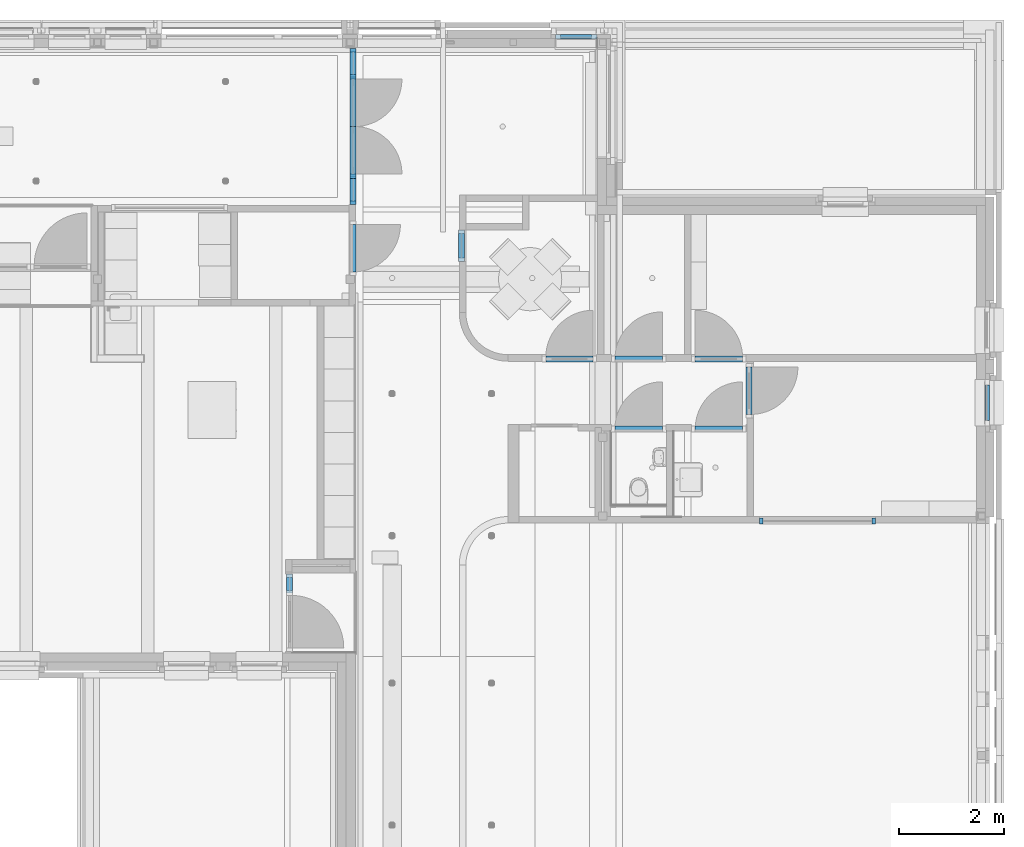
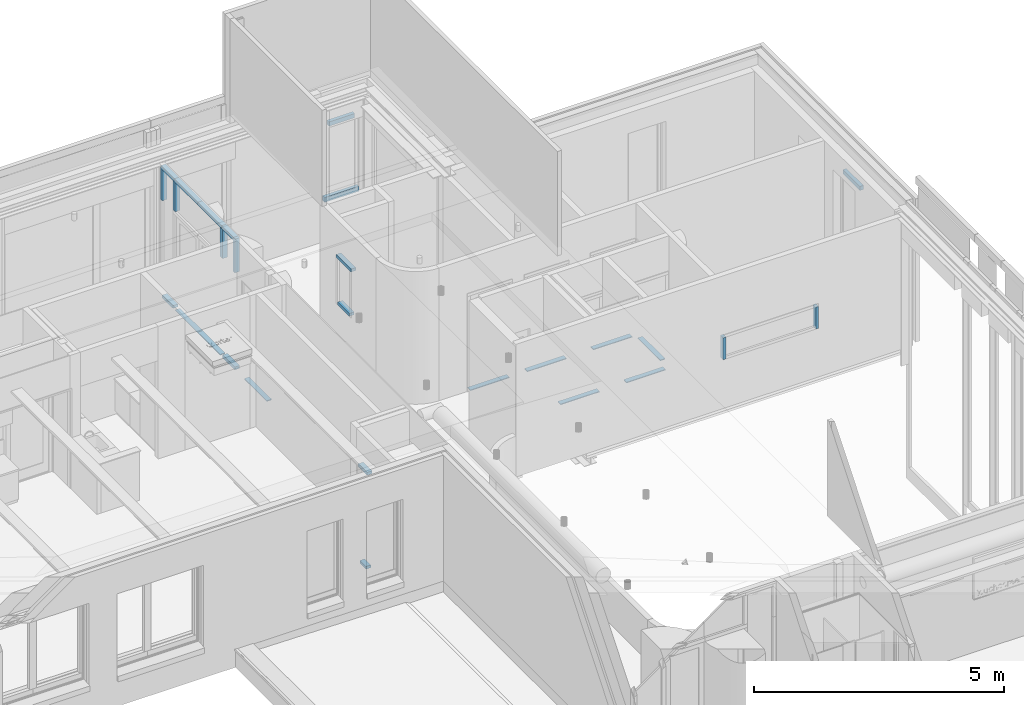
# One storey, part 30 of 128: 28 members, 13 elements without a shape of their own.
"""IFC2X3 building model written with IfcOpenShell, lengths in millimetres."""

from ifc_helpers import new_model, entity, si_unit, converted_unit, derived_unit, direction, frame, frame_2d, origin, origin_2d_with_axis, place, context, subcontext, project, spatial, rectangle, extrude, source, transform, mapped, material, type_object, type_shapes, element, aggregate, save


model = new_model("IFC2X3")

# Units and contexts
model_context = context("Model", 3, precision=0.01, world=origin(), true_north=direction((6.123031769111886e-17, 1.0)))
body_context = subcontext(model_context, "Body", "Model", "MODEL_VIEW")
ifc_project = project(units=[si_unit("LENGTHUNIT", "METRE", prefix="MILLI"), si_unit("AREAUNIT", "SQUARE_METRE"), si_unit("VOLUMEUNIT", "CUBIC_METRE"), converted_unit("PLANEANGLEUNIT", "DEGREE", entity("IfcRatioMeasure", 0.017453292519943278), si_unit("PLANEANGLEUNIT", "RADIAN"), dimensions=[0, 0, 0, 0, 0, 0, 0]), si_unit("MASSUNIT", "GRAM", prefix="KILO"), derived_unit("MASSDENSITYUNIT", [(si_unit("MASSUNIT", "GRAM", prefix="KILO"), 1), (si_unit("LENGTHUNIT", "METRE"), -3)]), derived_unit("IONCONCENTRATIONUNIT", [(si_unit("MASSUNIT", "GRAM", prefix="KILO"), 1), (si_unit("LENGTHUNIT", "METRE"), -3)]), derived_unit("MOMENTOFINERTIAUNIT", [(si_unit("LENGTHUNIT", "METRE"), 4)]), si_unit("TIMEUNIT", "SECOND"), si_unit("FREQUENCYUNIT", "HERTZ"), si_unit("THERMODYNAMICTEMPERATUREUNIT", "DEGREE_CELSIUS"), derived_unit("THERMALTRANSMITTANCEUNIT", [(si_unit("MASSUNIT", "GRAM", prefix="KILO"), 1), (si_unit("THERMODYNAMICTEMPERATUREUNIT", "KELVIN"), -1), (si_unit("TIMEUNIT", "SECOND"), -3)]), derived_unit("THERMALCONDUCTANCEUNIT", [(si_unit("MASSUNIT", "GRAM", prefix="KILO"), 1), (si_unit("THERMODYNAMICTEMPERATUREUNIT", "KELVIN"), -1), (si_unit("TIMEUNIT", "SECOND"), -3), (si_unit("LENGTHUNIT", "METRE"), 1)]), derived_unit("VOLUMETRICFLOWRATEUNIT", [(si_unit("LENGTHUNIT", "METRE"), 3), (si_unit("TIMEUNIT", "SECOND"), -1)]), derived_unit("MASSFLOWRATEUNIT", [(si_unit("MASSUNIT", "GRAM", prefix="KILO"), 1), (si_unit("TIMEUNIT", "SECOND"), -1)]), derived_unit("ROTATIONALFREQUENCYUNIT", [(si_unit("TIMEUNIT", "SECOND"), -1)]), si_unit("ELECTRICCURRENTUNIT", "AMPERE"), si_unit("ELECTRICVOLTAGEUNIT", "VOLT"), si_unit("POWERUNIT", "WATT"), si_unit("FORCEUNIT", "NEWTON", prefix="KILO"), si_unit("ILLUMINANCEUNIT", "LUX"), si_unit("LUMINOUSFLUXUNIT", "LUMEN"), si_unit("LUMINOUSINTENSITYUNIT", "CANDELA"), derived_unit("USERDEFINED", [(si_unit("MASSUNIT", "GRAM", prefix="KILO"), -1), (si_unit("LENGTHUNIT", "METRE"), -2), (si_unit("TIMEUNIT", "SECOND"), 3), (si_unit("LUMINOUSFLUXUNIT", "LUMEN"), 1)]), derived_unit("USERDEFINED", [(si_unit("MASSUNIT", "GRAM", prefix="KILO"), 1), (si_unit("TIMEUNIT", "SECOND"), -3), (si_unit("LENGTHUNIT", "METRE"), 3), (si_unit("ELECTRICCURRENTUNIT", "AMPERE"), -2)]), derived_unit("SOUNDPOWERUNIT", [(si_unit("MASSUNIT", "GRAM", prefix="KILO"), 1), (si_unit("TIMEUNIT", "SECOND"), -3), (si_unit("LENGTHUNIT", "METRE"), 2)]), derived_unit("SOUNDPRESSUREUNIT", [(si_unit("MASSUNIT", "GRAM", prefix="KILO"), 1), (si_unit("LENGTHUNIT", "METRE"), -1), (si_unit("TIMEUNIT", "SECOND"), -2)]), derived_unit("LINEARVELOCITYUNIT", [(si_unit("LENGTHUNIT", "METRE"), 1), (si_unit("TIMEUNIT", "SECOND"), -1)]), si_unit("PRESSUREUNIT", "PASCAL"), derived_unit("USERDEFINED", [(si_unit("MASSUNIT", "GRAM", prefix="KILO"), 1), (si_unit("LENGTHUNIT", "METRE"), -2), (si_unit("TIMEUNIT", "SECOND"), -2)]), derived_unit("LINEARFORCEUNIT", [(si_unit("MASSUNIT", "GRAM", prefix="KILO"), 1), (si_unit("TIMEUNIT", "SECOND"), -2)]), derived_unit("PLANARFORCEUNIT", [(si_unit("MASSUNIT", "GRAM", prefix="KILO"), 1), (si_unit("LENGTHUNIT", "METRE"), -1), (si_unit("TIMEUNIT", "SECOND"), -2)]), derived_unit("SPECIFICHEATCAPACITYUNIT", [(si_unit("THERMODYNAMICTEMPERATUREUNIT", "KELVIN"), -1), (si_unit("LENGTHUNIT", "METRE"), 2), (si_unit("TIMEUNIT", "SECOND"), -2)]), derived_unit("HEATINGVALUEUNIT", [(si_unit("LENGTHUNIT", "METRE"), 2), (si_unit("TIMEUNIT", "SECOND"), -2)]), derived_unit("VAPORPERMEABILITYUNIT", [(si_unit("LENGTHUNIT", "METRE"), -1), (si_unit("TIMEUNIT", "SECOND"), 1)]), derived_unit("DYNAMICVISCOSITYUNIT", [(si_unit("MASSUNIT", "GRAM", prefix="KILO"), 1), (si_unit("TIMEUNIT", "SECOND"), -1), (si_unit("LENGTHUNIT", "METRE"), -1)]), derived_unit("THERMALEXPANSIONCOEFFICIENTUNIT", [(si_unit("THERMODYNAMICTEMPERATUREUNIT", "KELVIN"), -1)]), derived_unit("MODULUSOFELASTICITYUNIT", [(si_unit("MASSUNIT", "GRAM", prefix="KILO"), 1), (si_unit("LENGTHUNIT", "METRE"), -1), (si_unit("TIMEUNIT", "SECOND"), -2)]), derived_unit("ISOTHERMALMOISTURECAPACITYUNIT", [(si_unit("LENGTHUNIT", "METRE"), 3), (si_unit("MASSUNIT", "GRAM", prefix="KILO"), -1)]), derived_unit("MOISTUREDIFFUSIVITYUNIT", [(si_unit("TIMEUNIT", "SECOND"), -1), (si_unit("LENGTHUNIT", "METRE"), 2)])], contexts=[model_context])

# Site, building, storey
site_placement = place(None, frame((0.0, 300.0, 0.0)))
site = spatial("IfcSite", under=ifc_project, at=site_placement, Name="<Kadastrale nummers>", CompositionType="ELEMENT")
building_placement = place(site_placement, origin())
building = spatial("IfcBuilding", under=site, at=building_placement, CompositionType="ELEMENT")
storey_placement = place(building_placement, frame((0.0, 0.0, 3560.0000331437)))
storey = spatial("IfcBuildingStorey", under=building, at=storey_placement, Name="01 eerste verdieping", CompositionType="ELEMENT", Elevation=3560.0000331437)

# Curtain wall, member
curtain_wall_type_1 = type_object("IfcCurtainWallType", Name="Curtain Wall:Merk H02", PredefinedType="NOTDEFINED")
curtain_wall_1_placement = place(storey_placement, frame((0.0, 0.0, -3560.0000331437)))
curtain_wall_1 = element("IfcCurtainWall", 1, at=curtain_wall_1_placement, inside=storey, type_object=curtain_wall_type_1, Name="Curtain Wall:Merk H02", ObjectType="Curtain Wall:Merk H02")
ifc_material_1 = material(Name="ISR_Kunststof_grijs")
member_type_1 = type_object("IfcMemberType", Name="Rectangular Mullion:31_CWM_020x114", PredefinedType="MULLION", material=ifc_material_1)
shared_shape_1 = source(origin(), body_context, "Body", "SweptSolid", [
    extrude(rectangle(XDim=113.99999999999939, YDim=20.0, at=origin_2d_with_axis()), frame((-10.0, -57.0, -900.0), z_axis=(0.0, 0.0, 1.0), x_axis=(0.0, -1.0, 0.0)), (0.0, 0.0, 1.0), 899.999999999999),
])
type_shapes(member_type_1, [shared_shape_1])
member_1_placement = place(curtain_wall_1_placement, frame((41632.0, 43725.12500267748, 3650.00003501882), z_axis=(-1.0, 0.0, 0.0), x_axis=(0.0, 0.0, -1.0)))
member_1 = element("IfcMember", 2, at=member_1_placement, type_object=member_type_1, material=ifc_material_1, Name="Rectangular Mullion:31_CWM_020x114", ObjectType="Rectangular Mullion:31_CWM_020x114", context=body_context, shape_type="MappedRepresentation", body=[
    mapped(shared_shape_1, transform((0.0, 0.0, 0.0), scale=1.0)),
])
aggregate(curtain_wall_1, [member_1])

curtain_wall_2_placement = place(storey_placement, frame((0.0, 0.0, -3560.0000331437)))
curtain_wall_2 = element("IfcCurtainWall", 3, at=curtain_wall_2_placement, inside=storey, type_object=curtain_wall_type_1, Name="Curtain Wall:Merk H02", ObjectType="Curtain Wall:Merk H02")
member_2_placement = place(curtain_wall_2_placement, frame((43157.0, 42395.125002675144, 3650.00003501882), z_axis=(-1.0, 0.0, 0.0), x_axis=(0.0, 0.0, -1.0)))
member_2 = element("IfcMember", 4, at=member_2_placement, type_object=member_type_1, material=ifc_material_1, Name="Rectangular Mullion:31_CWM_020x114", ObjectType="Rectangular Mullion:31_CWM_020x114", context=body_context, shape_type="MappedRepresentation", body=[
    mapped(shared_shape_1, transform((0.0, 0.0, 0.0), scale=1.0)),
])
aggregate(curtain_wall_2, [member_2])

curtain_wall_3_placement = place(storey_placement, frame((0.0, 0.0, -3560.0000331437)))
curtain_wall_3 = element("IfcCurtainWall", 5, at=curtain_wall_3_placement, inside=storey, type_object=curtain_wall_type_1, Name="Curtain Wall:Merk H02", ObjectType="Curtain Wall:Merk H02")
member_3_placement = place(curtain_wall_3_placement, frame((41632.0, 42395.125002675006, 3650.00003501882), z_axis=(-1.0, 0.0, 0.0), x_axis=(0.0, 0.0, -1.0)))
member_3 = element("IfcMember", 6, at=member_3_placement, type_object=member_type_1, material=ifc_material_1, Name="Rectangular Mullion:31_CWM_020x114", ObjectType="Rectangular Mullion:31_CWM_020x114", context=body_context, shape_type="MappedRepresentation", body=[
    mapped(shared_shape_1, transform((0.0, 0.0, 0.0), scale=1.0)),
])
aggregate(curtain_wall_3, [member_3])

curtain_wall_type_2 = type_object("IfcCurtainWallType", Name="Curtain Wall:Merk H16", PredefinedType="NOTDEFINED")
curtain_wall_4_placement = place(storey_placement, frame((0.0, 0.0, -3560.0000331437)))
curtain_wall_4 = element("IfcCurtainWall", 7, at=curtain_wall_4_placement, inside=storey, type_object=curtain_wall_type_2, Name="Curtain Wall:Merk H16", ObjectType="Curtain Wall:Merk H16")
member_4_placement = place(curtain_wall_4_placement, frame((40318.0, 43725.125002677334, 3650.0000350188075), z_axis=(-1.0, 0.0, 0.0), x_axis=(0.0, 0.0, -1.0)))
member_4 = element("IfcMember", 8, at=member_4_placement, type_object=member_type_1, material=ifc_material_1, Name="Rectangular Mullion:31_CWM_020x114", ObjectType="Rectangular Mullion:31_CWM_020x114", context=body_context, shape_type="MappedRepresentation", body=[
    mapped(shared_shape_1, transform((0.0, 0.0, 0.0), scale=1.0)),
])
aggregate(curtain_wall_4, [member_4])

curtain_wall_5_placement = place(storey_placement, frame((0.0, 0.0, -3560.0000331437)))
curtain_wall_5 = element("IfcCurtainWall", 9, at=curtain_wall_5_placement, inside=storey, type_object=curtain_wall_type_1, Name="Curtain Wall:Merk H02", ObjectType="Curtain Wall:Merk H02")
member_type_2 = type_object("IfcMemberType", Name="Rectangular Mullion:31_CWM_020x114", PredefinedType="MULLION", material=ifc_material_1)
shared_shape_2 = source(origin(), body_context, "Body", "SweptSolid", [
    extrude(rectangle(XDim=113.99999999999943, YDim=20.0, at=origin_2d_with_axis()), frame((-10.0, 57.0, -900.0), z_axis=(0.0, 0.0, 1.0), x_axis=(0.0, -1.0, 0.0)), (0.0, 0.0, 1.0), 899.999999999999),
])
type_shapes(member_type_2, [shared_shape_2])
member_5_placement = place(curtain_wall_5_placement, frame((36601.0, 45437.10974942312, 3650.000035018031), z_axis=(0.0, -1.0, 0.0), x_axis=(0.0, 0.0, -1.0)))
member_5 = element("IfcMember", 10, at=member_5_placement, type_object=member_type_2, material=ifc_material_1, Name="Rectangular Mullion:31_CWM_020x114", ObjectType="Rectangular Mullion:31_CWM_020x114", context=body_context, shape_type="MappedRepresentation", body=[
    mapped(shared_shape_2, transform((0.0, 0.0, 0.0), scale=1.0)),
])
aggregate(curtain_wall_5, [member_5])

curtain_wall_6_placement = place(storey_placement, frame((0.0, 0.0, -3560.0000331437)))
curtain_wall_6 = element("IfcCurtainWall", 11, at=curtain_wall_6_placement, inside=storey, type_object=curtain_wall_type_2, Name="Curtain Wall:Merk H16", ObjectType="Curtain Wall:Merk H16")
member_6_placement = place(curtain_wall_6_placement, frame((44057.0, 43725.12500267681, 3650.0000350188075), z_axis=(1.0, 0.0, 0.0), x_axis=(0.0, 0.0, -1.0)))
member_6 = element("IfcMember", 12, at=member_6_placement, type_object=member_type_2, material=ifc_material_1, Name="Rectangular Mullion:31_CWM_020x114", ObjectType="Rectangular Mullion:31_CWM_020x114", context=body_context, shape_type="MappedRepresentation", body=[
    mapped(shared_shape_2, transform((0.0, 0.0, 0.0), scale=1.0)),
])
aggregate(curtain_wall_6, [member_6])

curtain_wall_7_placement = place(storey_placement, frame((0.0, 0.0, -3560.0000331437)))
curtain_wall_7 = element("IfcCurtainWall", 13, at=curtain_wall_7_placement, inside=storey, type_object=curtain_wall_type_2, Name="Curtain Wall:Merk H16", ObjectType="Curtain Wall:Merk H16")
member_7_placement = place(curtain_wall_7_placement, frame((44125.0, 42730.12500266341, 3650.000035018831), z_axis=(0.0, -1.0, 0.0), x_axis=(0.0, 0.0, -1.0)))
member_7 = element("IfcMember", 14, at=member_7_placement, type_object=member_type_2, material=ifc_material_1, Name="Rectangular Mullion:31_CWM_020x114", ObjectType="Rectangular Mullion:31_CWM_020x114", context=body_context, shape_type="MappedRepresentation", body=[
    mapped(shared_shape_2, transform((0.0, 0.0, 0.0), scale=1.0)),
])
aggregate(curtain_wall_7, [member_7])

# Curtain wall, members
curtain_wall_type_3 = type_object("IfcCurtainWallType", Name="Curtain Wall:Merk H03", PredefinedType="NOTDEFINED")
curtain_wall_8_placement = place(storey_placement, frame((0.0, 0.0, -3560.0000331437)))
curtain_wall_8 = element("IfcCurtainWall", 15, at=curtain_wall_8_placement, inside=storey, type_object=curtain_wall_type_3, Name="Curtain Wall:Merk H03", ObjectType="Curtain Wall:Merk H03")
ifc_material_2 = material(Name="ISR_HPL")
member_type_3 = type_object("IfcMemberType", Name="Rectangular Mullion:31_CWM_067x114", PredefinedType="MULLION", material=ifc_material_2)
shared_shape_3 = source(origin(), body_context, "Body", "SweptSolid", [
    extrude(rectangle(XDim=113.99999999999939, YDim=67.0, at=origin_2d_with_axis()), frame((-33.5, -57.0, -246.0), z_axis=(0.0, 0.0, 1.0), x_axis=(0.0, -1.0, 0.0)), (0.0, 0.0, 1.0), 245.99999999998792),
])
type_shapes(member_type_3, [shared_shape_3])
member_8_placement = place(curtain_wall_8_placement, frame((35396.03993791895, 39628.0, 3650.0000350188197), z_axis=(0.0, 1.0, 0.0), x_axis=(0.0, 0.0, -1.0)))
member_8 = element("IfcMember", 16, at=member_8_placement, type_object=member_type_3, material=ifc_material_2, Name="Rectangular Mullion:31_CWM_067x114", ObjectType="Rectangular Mullion:31_CWM_067x114", context=body_context, shape_type="MappedRepresentation", body=[
    mapped(shared_shape_3, transform((0.0, 0.0, 0.0), scale=1.0)),
])
member_type_4 = type_object("IfcMemberType", Name="Rectangular Mullion:31_CWM_067x114", PredefinedType="MULLION", material=ifc_material_2)
shared_shape_4 = source(origin(), body_context, "Body", "SweptSolid", [
    extrude(rectangle(XDim=113.99999999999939, YDim=67.0, at=origin_2d_with_axis()), frame((-33.5, -57.0, -358.0), z_axis=(0.0, 0.0, 1.0), x_axis=(0.0, -1.0, 0.0)), (0.0, 0.0, 1.0), 357.99999999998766),
])
type_shapes(member_type_4, [shared_shape_4])
member_9_placement = place(curtain_wall_8_placement, frame((35396.039937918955, 39337.0, 6040.0000331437), z_axis=(0.0, -1.0, 0.0), x_axis=(0.0, 0.0, 1.0)))
member_9 = element("IfcMember", 17, at=member_9_placement, type_object=member_type_4, material=ifc_material_2, Name="Rectangular Mullion:31_CWM_067x114", ObjectType="Rectangular Mullion:31_CWM_067x114", context=body_context, shape_type="MappedRepresentation", body=[
    mapped(shared_shape_4, transform((0.0, 0.0, 0.0), scale=1.0)),
])
aggregate(curtain_wall_8, [member_8, member_9])

curtain_wall_type_4 = type_object("IfcCurtainWallType", Name="Curtain Wall:Merk H13", PredefinedType="NOTDEFINED")
curtain_wall_9_placement = place(storey_placement, frame((0.0, 0.0, -3560.0000331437)))
curtain_wall_9 = element("IfcCurtainWall", 18, at=curtain_wall_9_placement, inside=storey, type_object=curtain_wall_type_4, Name="Curtain Wall:Merk H13", ObjectType="Curtain Wall:Merk H13")
member_type_5 = type_object("IfcMemberType", Name="Rectangular Mullion:31_CWM_067x114", PredefinedType="MULLION", material=ifc_material_2)
shared_shape_5 = source(origin(), body_context, "Body", "SweptSolid", [
    extrude(rectangle(XDim=113.99999999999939, YDim=67.0, at=origin_2d_with_axis()), frame((-33.5, -57.0, -533.0), z_axis=(0.0, 0.0, 1.0), x_axis=(0.0, -1.0, 0.0)), (0.0, 0.0, 1.0), 533.0000000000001),
])
type_shapes(member_type_5, [shared_shape_5])
member_10_placement = place(curtain_wall_9_placement, frame((46585.0, 40650.0, 4850.0000331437), z_axis=(0.0, 0.0, -1.0), x_axis=(1.0, 0.0, 0.0)))
member_10 = element("IfcMember", 19, at=member_10_placement, type_object=member_type_5, material=ifc_material_2, Name="Rectangular Mullion:31_CWM_067x114", ObjectType="Rectangular Mullion:31_CWM_067x114", context=body_context, shape_type="MappedRepresentation", body=[
    mapped(shared_shape_5, transform((0.0, 0.0, 0.0), scale=1.0)),
])
member_type_6 = type_object("IfcMemberType", Name="Rectangular Mullion:31_CWM_067x114", PredefinedType="MULLION", material=ifc_material_2)
shared_shape_6 = source(origin(), body_context, "Body", "SweptSolid", [
    extrude(rectangle(XDim=113.9999999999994, YDim=67.0, at=frame_2d((1.0658141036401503e-14, 0.0), x_axis=(1.0, 0.0))), frame((-33.5, -57.0, -533.0), z_axis=(0.0, 0.0, 1.0), x_axis=(0.0, -1.0, 0.0)), (0.0, 0.0, 1.0), 533.0000000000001),
])
type_shapes(member_type_6, [shared_shape_6])
member_11_placement = place(curtain_wall_9_placement, frame((44380.0, 40650.0, 5383.0000331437), z_axis=(0.0, 0.0, 1.0), x_axis=(-1.0, 0.0, 0.0)))
member_11 = element("IfcMember", 20, at=member_11_placement, type_object=member_type_6, material=ifc_material_2, Name="Rectangular Mullion:31_CWM_067x114", ObjectType="Rectangular Mullion:31_CWM_067x114", context=body_context, shape_type="MappedRepresentation", body=[
    mapped(shared_shape_6, transform((0.0, 0.0, 0.0), scale=1.0)),
])
aggregate(curtain_wall_9, [member_10, member_11])

curtain_wall_type_5 = type_object("IfcCurtainWallType", Name="Curtain Wall:Merk H05", PredefinedType="NOTDEFINED")
curtain_wall_10_placement = place(storey_placement, frame((0.0, 0.0, -3560.0000331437)))
curtain_wall_10 = element("IfcCurtainWall", 21, at=curtain_wall_10_placement, inside=storey, type_object=curtain_wall_type_5, Name="Curtain Wall:Merk H05", ObjectType="Curtain Wall:Merk H05")
member_type_7 = type_object("IfcMemberType", Name="Rectangular Mullion:31_CWM_067x114", PredefinedType="MULLION", material=ifc_material_2)
shared_shape_7 = source(origin(), body_context, "Body", "SweptSolid", [
    extrude(rectangle(XDim=113.99999999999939, YDim=67.0, at=origin_2d_with_axis()), frame((-33.5, 57.0, -600.0), z_axis=(0.0, 0.0, 1.0), x_axis=(0.0, -1.0, 0.0)), (0.0, 0.0, 1.0), 600.0000000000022),
])
type_shapes(member_type_7, [shared_shape_7])
member_12_placement = place(curtain_wall_10_placement, frame((38774.0, 45635.0, 6040.0000331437), z_axis=(0.0, -1.0, 0.0), x_axis=(0.0, 0.0, 1.0)))
member_12 = element("IfcMember", 22, at=member_12_placement, type_object=member_type_7, material=ifc_material_2, Name="Rectangular Mullion:31_CWM_067x114", ObjectType="Rectangular Mullion:31_CWM_067x114", context=body_context, shape_type="MappedRepresentation", body=[
    mapped(shared_shape_7, transform((0.0, 0.0, 0.0), scale=1.0)),
])
member_type_8 = type_object("IfcMemberType", Name="Rectangular Mullion:31_CWM_067x114", PredefinedType="MULLION", material=ifc_material_2)
shared_shape_8 = source(origin(), body_context, "Body", "SweptSolid", [
    extrude(rectangle(XDim=113.99999999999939, YDim=67.0, at=origin_2d_with_axis()), frame((-33.5, 57.0, -466.0), z_axis=(0.0, 0.0, 1.0), x_axis=(0.0, -1.0, 0.0)), (0.0, 0.0, 1.0), 466.00000000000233),
])
type_shapes(member_type_8, [shared_shape_8])
member_13_placement = place(curtain_wall_10_placement, frame((38774.0, 46168.0, 4850.0000331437), z_axis=(0.0, 1.0, 0.0), x_axis=(0.0, 0.0, -1.0)))
member_13 = element("IfcMember", 23, at=member_13_placement, type_object=member_type_8, material=ifc_material_2, Name="Rectangular Mullion:31_CWM_067x114", ObjectType="Rectangular Mullion:31_CWM_067x114", context=body_context, shape_type="MappedRepresentation", body=[
    mapped(shared_shape_8, transform((0.0, 0.0, 0.0), scale=1.0)),
])
aggregate(curtain_wall_10, [member_12, member_13])

curtain_wall_type_6 = type_object("IfcCurtainWallType", Name="Curtain Wall:Merk H11", PredefinedType="NOTDEFINED")
curtain_wall_11_placement = place(storey_placement, frame((0.0, 0.0, -3560.0000331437)))
curtain_wall_11 = element("IfcCurtainWall", 24, at=curtain_wall_11_placement, inside=storey, type_object=curtain_wall_type_6, Name="Curtain Wall:Merk H11", ObjectType="Curtain Wall:Merk H11")
member_type_9 = type_object("IfcMemberType", Name="Rectangular Mullion:31_CWM_067x114", PredefinedType="MULLION", material=ifc_material_2)
shared_shape_9 = source(origin(), body_context, "Body", "SweptSolid", [
    extrude(rectangle(XDim=113.99999999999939, YDim=67.0, at=origin_2d_with_axis()), frame((-33.5, -57.0, -755.0), z_axis=(0.0, 0.0, 1.0), x_axis=(0.0, -1.0, 0.0)), (0.0, 0.0, 1.0), 754.99999999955),
])
type_shapes(member_type_9, [shared_shape_9])
member_14_placement = place(curtain_wall_11_placement, frame((36601.0, 49685.0, 6773.0000331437), z_axis=(0.0, 0.0, 1.0), x_axis=(0.0, 1.0, 0.0)))
member_14 = element("IfcMember", 25, at=member_14_placement, type_object=member_type_9, material=ifc_material_2, Name="Rectangular Mullion:31_CWM_067x114", ObjectType="Rectangular Mullion:31_CWM_067x114", context=body_context, shape_type="MappedRepresentation", body=[
    mapped(shared_shape_9, transform((0.0, 0.0, 0.0), scale=1.0)),
])
member_type_10 = type_object("IfcMemberType", Name="Rectangular Mullion:31_CWM_067x114", PredefinedType="MULLION", material=ifc_material_2)
shared_shape_10 = source(origin(), body_context, "Body", "SweptSolid", [
    extrude(rectangle(XDim=113.99999999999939, YDim=67.0, at=origin_2d_with_axis()), frame((-33.5, -57.0, -822.0), z_axis=(0.0, 0.0, 1.0), x_axis=(0.0, -1.0, 0.0)), (0.0, 0.0, 1.0), 821.99999999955),
])
type_shapes(member_type_10, [shared_shape_10])
member_15_placement = place(curtain_wall_11_placement, frame((36601.0, 46715.0, 6018.0000331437), z_axis=(0.0, 0.0, -1.0), x_axis=(0.0, -1.0, 0.0)))
member_15 = element("IfcMember", 26, at=member_15_placement, type_object=member_type_10, material=ifc_material_2, Name="Rectangular Mullion:31_CWM_067x114", ObjectType="Rectangular Mullion:31_CWM_067x114", context=body_context, shape_type="MappedRepresentation", body=[
    mapped(shared_shape_10, transform((0.0, 0.0, 0.0), scale=1.0)),
])
ifc_material_3 = material(Name="ISR_HPL Kleur hout")
member_type_11 = type_object("IfcMemberType", Name="Rectangular Mullion:31_CWM_090x114", PredefinedType="MULLION", material=ifc_material_3)
shared_shape_11 = source(origin(), body_context, "Body", "SweptSolid", [
    extrude(rectangle(XDim=113.99999999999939, YDim=90.0, at=origin_2d_with_axis()), frame((0.0, -57.0, -710.0), z_axis=(0.0, 0.0, 1.0), x_axis=(0.0, -1.0, 0.0)), (0.0, 0.0, 1.0), 710.000000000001),
])
type_shapes(member_type_11, [shared_shape_11])
member_16_placement = place(curtain_wall_11_placement, frame((36601.0, 47255.0, 6063.0000331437), z_axis=(0.0, 0.0, -1.0), x_axis=(0.0, -1.0, 0.0)))
member_16 = element("IfcMember", 27, at=member_16_placement, type_object=member_type_11, material=ifc_material_3, Name="Rectangular Mullion:31_CWM_090x114", ObjectType="Rectangular Mullion:31_CWM_090x114", context=body_context, shape_type="MappedRepresentation", body=[
    mapped(shared_shape_11, transform((0.0, 0.0, 0.0), scale=1.0)),
])
member_17_placement = place(curtain_wall_11_placement, frame((36601.0, 49145.0, 6063.0000331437), z_axis=(0.0, 0.0, -1.0), x_axis=(0.0, -1.0, 0.0)))
member_17 = element("IfcMember", 28, at=member_17_placement, type_object=member_type_11, material=ifc_material_3, Name="Rectangular Mullion:31_CWM_090x114", ObjectType="Rectangular Mullion:31_CWM_090x114", context=body_context, shape_type="MappedRepresentation", body=[
    mapped(shared_shape_11, transform((0.0, 0.0, 0.0), scale=1.0)),
])
member_type_12 = type_object("IfcMemberType", Name="Rectangular Mullion:31_CWM_067x114", PredefinedType="MULLION", material=ifc_material_2)
shared_shape_12 = source(origin(), body_context, "Body", "SweptSolid", [
    extrude(rectangle(XDim=113.99999999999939, YDim=67.0, at=origin_2d_with_axis()), frame((-33.5, -57.0, -473.0), z_axis=(0.0, 0.0, 1.0), x_axis=(0.0, -1.0, 0.0)), (0.0, 0.0, 1.0), 472.9999999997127),
])
type_shapes(member_type_12, [shared_shape_12])
member_18_placement = place(curtain_wall_11_placement, frame((36601.0, 46782.0, 6840.0000331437), z_axis=(0.0, -1.0, 0.0), x_axis=(0.0, 0.0, 1.0)))
member_18 = element("IfcMember", 29, at=member_18_placement, type_object=member_type_12, material=ifc_material_2, Name="Rectangular Mullion:31_CWM_067x114", ObjectType="Rectangular Mullion:31_CWM_067x114", context=body_context, shape_type="MappedRepresentation", body=[
    mapped(shared_shape_12, transform((0.0, 0.0, 0.0), scale=1.0)),
])
member_type_13 = type_object("IfcMemberType", Name="Rectangular Mullion:31_CWM_067x114", PredefinedType="MULLION", material=ifc_material_2)
shared_shape_13 = source(origin(), body_context, "Body", "SweptSolid", [
    extrude(rectangle(XDim=113.99999999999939, YDim=67.0, at=origin_2d_with_axis()), frame((-33.5, -57.0, -428.0), z_axis=(0.0, 0.0, 1.0), x_axis=(0.0, -1.0, 0.0)), (0.0, 0.0, 1.0), 427.9999999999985),
])
type_shapes(member_type_13, [shared_shape_13])
member_19_placement = place(curtain_wall_11_placement, frame((36601.0, 49618.0, 3650.0000350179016), z_axis=(0.0, 1.0, 0.0), x_axis=(0.0, 0.0, -1.0)))
member_19 = element("IfcMember", 30, at=member_19_placement, type_object=member_type_13, material=ifc_material_2, Name="Rectangular Mullion:31_CWM_067x114", ObjectType="Rectangular Mullion:31_CWM_067x114", context=body_context, shape_type="MappedRepresentation", body=[
    mapped(shared_shape_13, transform((0.0, 0.0, 0.0), scale=1.0)),
])
member_type_14 = type_object("IfcMemberType", Name="Rectangular Mullion:31_CWM_067x114", PredefinedType="MULLION", material=ifc_material_2)
shared_shape_14 = source(origin(), body_context, "Body", "SweptSolid", [
    extrude(rectangle(XDim=113.9999999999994, YDim=67.0, at=frame_2d((1.0658141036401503e-14, 0.0), x_axis=(1.0, 0.0))), frame((-33.5, -57.0, -945.0), z_axis=(0.0, 0.0, 1.0), x_axis=(0.0, -1.0, 0.0)), (0.0, 0.0, 1.0), 944.999999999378),
])
type_shapes(member_type_14, [shared_shape_14])
member_20_placement = place(curtain_wall_11_placement, frame((36601.0, 48200.0, 6840.0000331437), z_axis=(0.0, -1.0, 0.0), x_axis=(0.0, 0.0, 1.0)))
member_20 = element("IfcMember", 31, at=member_20_placement, type_object=member_type_14, material=ifc_material_2, Name="Rectangular Mullion:31_CWM_067x114", ObjectType="Rectangular Mullion:31_CWM_067x114", context=body_context, shape_type="MappedRepresentation", body=[
    mapped(shared_shape_14, transform((0.0, 0.0, 0.0), scale=1.0)),
])
member_type_15 = type_object("IfcMemberType", Name="Rectangular Mullion:31_CWM_020x114", PredefinedType="MULLION", material=ifc_material_1)
shared_shape_15 = source(origin(), body_context, "Body", "SweptSolid", [
    extrude(rectangle(XDim=113.99999999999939, YDim=20.0, at=origin_2d_with_axis()), frame((-10.0, -57.0, -900.0), z_axis=(0.0, 0.0, 1.0), x_axis=(0.0, -1.0, 0.0)), (0.0, 0.0, 1.0), 900.0000000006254),
])
type_shapes(member_type_15, [shared_shape_15])
member_21_placement = place(curtain_wall_11_placement, frame((36601.0, 48200.0, 3650.0000350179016), z_axis=(0.0, 1.0, 0.0), x_axis=(0.0, 0.0, -1.0)))
member_21 = element("IfcMember", 32, at=member_21_placement, type_object=member_type_15, material=ifc_material_1, Name="Rectangular Mullion:31_CWM_020x114", ObjectType="Rectangular Mullion:31_CWM_020x114", context=body_context, shape_type="MappedRepresentation", body=[
    mapped(shared_shape_15, transform((0.0, 0.0, 0.0), scale=1.0)),
])
member_type_16 = type_object("IfcMemberType", Name="Rectangular Mullion:31_CWM_067x114", PredefinedType="MULLION", material=ifc_material_2)
shared_shape_16 = source(origin(), body_context, "Body", "SweptSolid", [
    extrude(rectangle(XDim=113.9999999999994, YDim=67.0, at=frame_2d((1.0658141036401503e-14, 0.0), x_axis=(1.0, 0.0))), frame((-33.5, -57.0, -540.0), z_axis=(0.0, 0.0, 1.0), x_axis=(0.0, -1.0, 0.0)), (0.0, 0.0, 1.0), 539.9999999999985),
])
type_shapes(member_type_16, [shared_shape_16])
member_22_placement = place(curtain_wall_11_placement, frame((36601.0, 49145.0, 6840.0000331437), z_axis=(0.0, -1.0, 0.0), x_axis=(0.0, 0.0, 1.0)))
member_22 = element("IfcMember", 33, at=member_22_placement, type_object=member_type_16, material=ifc_material_2, Name="Rectangular Mullion:31_CWM_067x114", ObjectType="Rectangular Mullion:31_CWM_067x114", context=body_context, shape_type="MappedRepresentation", body=[
    mapped(shared_shape_16, transform((0.0, 0.0, 0.0), scale=1.0)),
])
member_type_17 = type_object("IfcMemberType", Name="Rectangular Mullion:31_CWM_020x114", PredefinedType="MULLION", material=ifc_material_1)
shared_shape_17 = source(origin(), body_context, "Body", "SweptSolid", [
    extrude(rectangle(XDim=113.99999999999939, YDim=20.0, at=origin_2d_with_axis()), frame((-10.0, -57.0, -900.0), z_axis=(0.0, 0.0, 1.0), x_axis=(0.0, -1.0, 0.0)), (0.0, 0.0, 1.0), 899.9999999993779),
])
type_shapes(member_type_17, [shared_shape_17])
member_23_placement = place(curtain_wall_11_placement, frame((36601.0, 49100.0, 3650.0000350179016), z_axis=(0.0, 1.0, 0.0), x_axis=(0.0, 0.0, -1.0)))
member_23 = element("IfcMember", 34, at=member_23_placement, type_object=member_type_17, material=ifc_material_1, Name="Rectangular Mullion:31_CWM_020x114", ObjectType="Rectangular Mullion:31_CWM_020x114", context=body_context, shape_type="MappedRepresentation", body=[
    mapped(shared_shape_17, transform((0.0, 0.0, 0.0), scale=1.0)),
])
member_type_18 = type_object("IfcMemberType", Name="Rectangular Mullion:31_CWM_067x114", PredefinedType="MULLION", material=ifc_material_2)
shared_shape_18 = source(origin(), body_context, "Body", "SweptSolid", [
    extrude(rectangle(XDim=113.9999999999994, YDim=67.0, at=frame_2d((1.0658141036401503e-14, 0.0), x_axis=(1.0, 0.0))), frame((-33.5, -57.0, -945.0), z_axis=(0.0, 0.0, 1.0), x_axis=(0.0, -1.0, 0.0)), (0.0, 0.0, 1.0), 945.0000000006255),
])
type_shapes(member_type_18, [shared_shape_18])
member_24_placement = place(curtain_wall_11_placement, frame((36601.0, 47255.0, 6840.0000331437), z_axis=(0.0, -1.0, 0.0), x_axis=(0.0, 0.0, 1.0)))
member_24 = element("IfcMember", 35, at=member_24_placement, type_object=member_type_18, material=ifc_material_2, Name="Rectangular Mullion:31_CWM_067x114", ObjectType="Rectangular Mullion:31_CWM_067x114", context=body_context, shape_type="MappedRepresentation", body=[
    mapped(shared_shape_18, transform((0.0, 0.0, 0.0), scale=1.0)),
])
member_type_19 = type_object("IfcMemberType", Name="Rectangular Mullion:31_CWM_067x114", PredefinedType="MULLION", material=ifc_material_2)
shared_shape_19 = source(origin(), body_context, "Body", "SweptSolid", [
    extrude(rectangle(XDim=113.9999999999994, YDim=67.0, at=frame_2d((1.0658141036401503e-14, 0.0), x_axis=(1.0, 0.0))), frame((-33.5, -57.0, -495.0), z_axis=(0.0, 0.0, 1.0), x_axis=(0.0, -1.0, 0.0)), (0.0, 0.0, 1.0), 494.9999999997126),
])
type_shapes(member_type_19, [shared_shape_19])
member_25_placement = place(curtain_wall_11_placement, frame((36601.0, 47210.0, 3650.0000350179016), z_axis=(0.0, 1.0, 0.0), x_axis=(0.0, 0.0, -1.0)))
member_25 = element("IfcMember", 36, at=member_25_placement, type_object=member_type_19, material=ifc_material_2, Name="Rectangular Mullion:31_CWM_067x114", ObjectType="Rectangular Mullion:31_CWM_067x114", context=body_context, shape_type="MappedRepresentation", body=[
    mapped(shared_shape_19, transform((0.0, 0.0, 0.0), scale=1.0)),
])
aggregate(curtain_wall_11, [member_18, member_19, member_14, member_20, member_21, member_22, member_23, member_24, member_25, member_15, member_16, member_17])

curtain_wall_type_7 = type_object("IfcCurtainWallType", Name="Curtain Wall:K_30", PredefinedType="NOTDEFINED")
curtain_wall_12_placement = place(storey_placement, frame((0.0, 0.0, -3560.0000331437)))
curtain_wall_12 = element("IfcCurtainWall", 37, at=curtain_wall_12_placement, inside=storey, type_object=curtain_wall_type_7, Name="Curtain Wall:K_30", ObjectType="Curtain Wall:K_30")
ifc_material_4 = material(Name="ISR_Kunststof_RAL7006")
member_type_20 = type_object("IfcMemberType", Name="Rectangular Mullion:100x83 Gealan Kubus", PredefinedType="MULLION", material=ifc_material_4)
shared_shape_20 = source(origin(), body_context, "Body", "SweptSolid", [
    extrude(rectangle(XDim=83.0, YDim=100.0, at=origin_2d_with_axis()), frame((-50.0, 41.5, -590.0), z_axis=(0.0, 0.0, 1.0), x_axis=(0.0, -1.0, 0.0)), (0.0, 0.0, 1.0), 590.0000000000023),
])
type_shapes(member_type_20, [shared_shape_20])
member_26_placement = place(curtain_wall_12_placement, frame((40599.0, 49868.0, 6390.0), z_axis=(-1.0, 0.0, 0.0), x_axis=(0.0, 0.0, 1.0)))
member_26 = element("IfcMember", 38, at=member_26_placement, type_object=member_type_20, material=ifc_material_4, Name="Rectangular Mullion:100x83 Gealan Kubus", ObjectType="Rectangular Mullion:100x83 Gealan Kubus", context=body_context, shape_type="MappedRepresentation", body=[
    mapped(shared_shape_20, transform((0.0, 0.0, 0.0), scale=1.0)),
])
member_type_21 = type_object("IfcMemberType", Name="Rectangular Mullion:120x83 Gealan Kubus", PredefinedType="MULLION", material=ifc_material_4)
shared_shape_21 = source(origin(), body_context, "Body", "SweptSolid", [
    extrude(rectangle(XDim=83.00000000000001, YDim=120.0, at=origin_2d_with_axis()), frame((-60.0, 41.50000000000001, -790.0), z_axis=(0.0, 0.0, 1.0), x_axis=(0.0, -1.0, 0.0)), (0.0, 0.0, 1.0), 789.999999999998),
])
type_shapes(member_type_21, [shared_shape_21])
member_27_placement = place(curtain_wall_12_placement, frame((41289.0, 49868.0, 4460.000035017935), z_axis=(1.0, 0.0, 0.0), x_axis=(0.0, 0.0, -1.0)))
member_27 = element("IfcMember", 39, at=member_27_placement, type_object=member_type_21, material=ifc_material_4, Name="Rectangular Mullion:120x83 Gealan Kubus", ObjectType="Rectangular Mullion:120x83 Gealan Kubus", context=body_context, shape_type="MappedRepresentation", body=[
    mapped(shared_shape_21, transform((0.0, 0.0, 0.0), scale=1.0)),
])
aggregate(curtain_wall_12, [member_26, member_27])

# Curtain wall, member
curtain_wall_type_8 = type_object("IfcCurtainWallType", Name="Curtain Wall:K_31", PredefinedType="NOTDEFINED")
curtain_wall_13_placement = place(storey_placement, frame((0.0, 0.0, -3560.0000331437)))
curtain_wall_13 = element("IfcCurtainWall", 40, at=curtain_wall_13_placement, inside=storey, type_object=curtain_wall_type_8, Name="Curtain Wall:K_31", ObjectType="Curtain Wall:K_31")
member_type_22 = type_object("IfcMemberType", Name="Rectangular Mullion:100x83 Gealan Kubus", PredefinedType="MULLION", material=ifc_material_4)
shared_shape_22 = source(origin(), body_context, "Body", "SweptSolid", [
    extrude(rectangle(XDim=83.00000000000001, YDim=100.0, at=origin_2d_with_axis()), frame((-50.0, 41.50000000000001, -680.0), z_axis=(0.0, 0.0, 1.0), x_axis=(0.0, -1.0, 0.0)), (0.0, 0.0, 1.0), 679.9999999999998),
])
type_shapes(member_type_22, [shared_shape_22])
member_28_placement = place(curtain_wall_13_placement, frame((48668.0, 43292.12500266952, 6390.00003501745), z_axis=(0.0, 1.0, 0.0), x_axis=(0.0, 0.0, 1.0)))
member_28 = element("IfcMember", 41, at=member_28_placement, type_object=member_type_22, material=ifc_material_4, Name="Rectangular Mullion:100x83 Gealan Kubus", ObjectType="Rectangular Mullion:100x83 Gealan Kubus", context=body_context, shape_type="MappedRepresentation", body=[
    mapped(shared_shape_22, transform((0.0, 0.0, 0.0), scale=1.0)),
])
aggregate(curtain_wall_13, [member_28])

save(model, "model.ifc")
